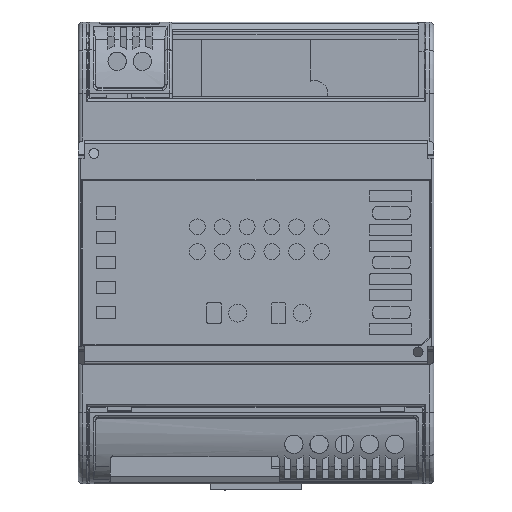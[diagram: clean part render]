
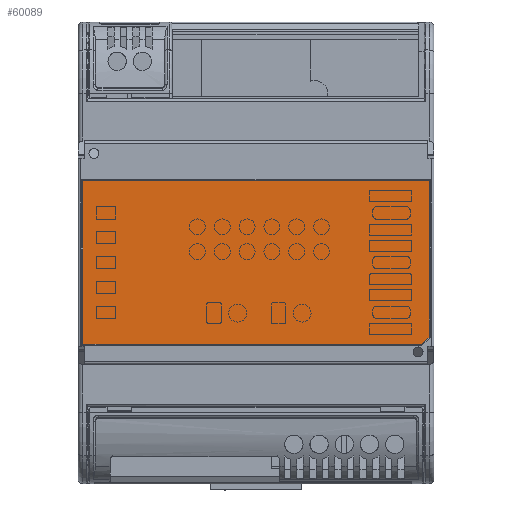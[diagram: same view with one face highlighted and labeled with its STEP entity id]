
A CAD part, top view. The second image highlights one B-rep face of the part: STEP entity #60089.
In plain terms, the highlighted planar face has unit normal (0, 0, 1).
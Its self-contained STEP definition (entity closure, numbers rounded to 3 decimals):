
#506 = EDGE_CURVE ( 'NONE', #5340, #26176, #14164, .T. ) ;
#5340 = VERTEX_POINT ( 'NONE', #82544 ) ;
#8570 = AXIS2_PLACEMENT_3D ( 'NONE', #104124, #12427, #71074 ) ;
#10979 = VERTEX_POINT ( 'NONE', #22581 ) ;
#11496 = DIRECTION ( 'NONE',  ( 0.707, 0.707, 0. ) ) ;
#11910 = CARTESIAN_POINT ( 'NONE',  ( 34.85, -17., 0.1 ) ) ;
#12427 = DIRECTION ( 'NONE',  ( 0., 0., 1. ) ) ;
#14164 = LINE ( 'NONE', #75766, #100475 ) ;
#15407 = LINE ( 'NONE', #11910, #54614 ) ;
#17032 = ORIENTED_EDGE ( 'NONE', *, *, #506, .T. ) ;
#17821 = FACE_OUTER_BOUND ( 'NONE', #52164, .T. ) ;
#19895 = CARTESIAN_POINT ( 'NONE',  ( -34.85, 14.5, 0.1 ) ) ;
#22581 = CARTESIAN_POINT ( 'NONE',  ( -34.85, 14.5, 0.1 ) ) ;
#25261 = VECTOR ( 'NONE', #44696, 1000. ) ;
#26176 = VERTEX_POINT ( 'NONE', #102447 ) ;
#27178 = ORIENTED_EDGE ( 'NONE', *, *, #73782, .T. ) ;
#29241 = ORIENTED_EDGE ( 'NONE', *, *, #77424, .T. ) ;
#32894 = CARTESIAN_POINT ( 'NONE',  ( 34.85, -17., 0.1 ) ) ;
#44696 = DIRECTION ( 'NONE',  ( 0., -1., 0. ) ) ;
#44742 = CARTESIAN_POINT ( 'NONE',  ( 33.35, -18.5, 0.1 ) ) ;
#52164 = EDGE_LOOP ( 'NONE', ( #27178, #17032, #53540, #29241, #98956 ) ) ;
#53540 = ORIENTED_EDGE ( 'NONE', *, *, #79786, .T. ) ;
#54039 = VERTEX_POINT ( 'NONE', #32894 ) ;
#54614 = VECTOR ( 'NONE', #62057, 1000. ) ;
#57022 = DIRECTION ( 'NONE',  ( -1., 0., 0. ) ) ;
#57462 = VECTOR ( 'NONE', #11496, 1000. ) ;
#60089 = ADVANCED_FACE ( 'NONE', ( #17821 ), #87540, .T. ) ;
#60114 = LINE ( 'NONE', #44742, #57462 ) ;
#60286 = EDGE_CURVE ( 'NONE', #82421, #10979, #78053, .T. ) ;
#62057 = DIRECTION ( 'NONE',  ( 0., 1., 0. ) ) ;
#62642 = CARTESIAN_POINT ( 'NONE',  ( 34.85, 14.5, 0.1 ) ) ;
#69850 = LINE ( 'NONE', #19895, #25261 ) ;
#71074 = DIRECTION ( 'NONE',  ( 1., 0., 0. ) ) ;
#73782 = EDGE_CURVE ( 'NONE', #10979, #5340, #69850, .T. ) ;
#75424 = VECTOR ( 'NONE', #57022, 1000. ) ;
#75544 = DIRECTION ( 'NONE',  ( 1., 0., 0. ) ) ;
#75766 = CARTESIAN_POINT ( 'NONE',  ( -34.85, -18.5, 0.1 ) ) ;
#77424 = EDGE_CURVE ( 'NONE', #54039, #82421, #15407, .T. ) ;
#78053 = LINE ( 'NONE', #107000, #75424 ) ;
#79786 = EDGE_CURVE ( 'NONE', #26176, #54039, #60114, .T. ) ;
#82421 = VERTEX_POINT ( 'NONE', #62642 ) ;
#82544 = CARTESIAN_POINT ( 'NONE',  ( -34.85, -18.5, 0.1 ) ) ;
#87540 = PLANE ( 'NONE',  #8570 ) ;
#98956 = ORIENTED_EDGE ( 'NONE', *, *, #60286, .T. ) ;
#100475 = VECTOR ( 'NONE', #75544, 1000. ) ;
#102447 = CARTESIAN_POINT ( 'NONE',  ( 33.35, -18.5, 0.1 ) ) ;
#104124 = CARTESIAN_POINT ( 'NONE',  ( 0., 0., 0.1 ) ) ;
#107000 = CARTESIAN_POINT ( 'NONE',  ( 34.85, 14.5, 0.1 ) ) ;
